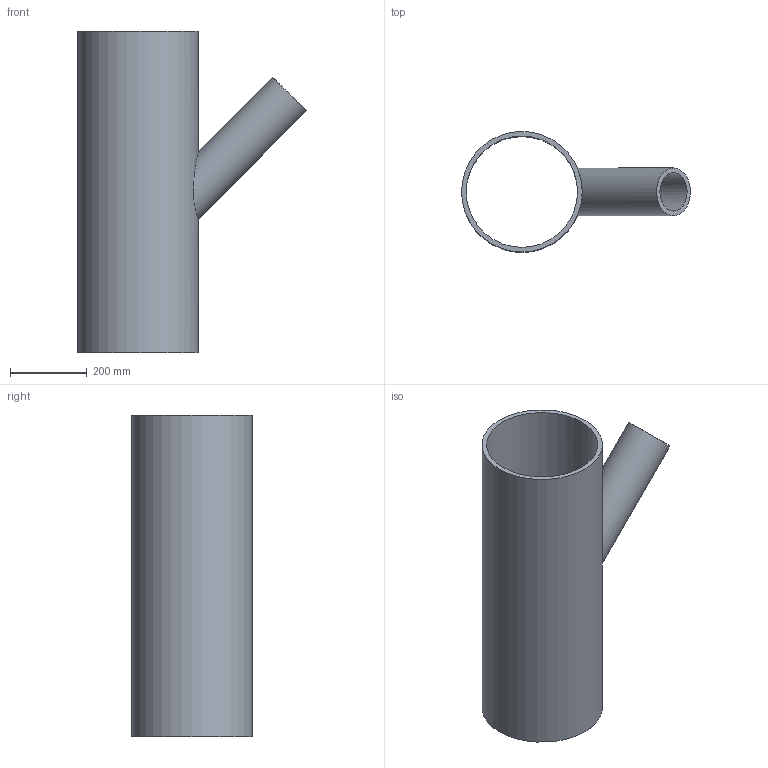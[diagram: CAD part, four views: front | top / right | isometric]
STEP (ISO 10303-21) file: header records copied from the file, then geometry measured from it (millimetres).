
FILE_DESCRIPTION(/* description */ (''),/* implementation_level */ '2;1');
FILE_NAME(/* name */ 'C:\Planerdaten\Export PLA\PRO_101557\stp\372139.stp',/* time_stamp */ '2021-09-30T15:09:55+02:00',/* author */ ('JANAN'),/* organization */ (''),/* preprocessor_version */ 'ST-DEVELOPER v16.13',/* originating_system */ 'Autodesk Inventor 2018',/* authorisation */ '');
FILE_SCHEMA (('AUTOMOTIVE_DESIGN { 1 0 10303 214 3 1 1 }'));
Length unit declared in the file: millimetre
Products named in the file (1): tmpE29A.tmp
Bounding box: 597.67 x 315 x 840 mm (x, y, z)
Volume: 11101132.2 mm3; surface area: 1846589 mm2
Topology: 1 solids, 1 shells, 7 faces, 17 edges, 12 vertices
Faces by surface type: cylinder 4, plane 3
Full cylindrical faces by diameter (mm): 100.6 x1, 125 x1, 290.6 x1, 315 x1
Entity records: 324 total; most frequent: CARTESIAN_POINT 146, DIRECTION 28, EDGE_LOOP 16, ORIENTED_EDGE 16, AXIS2_PLACEMENT_3D 14, FACE_BOUND 9, VERTEX_POINT 8, EDGE_CURVE 8
